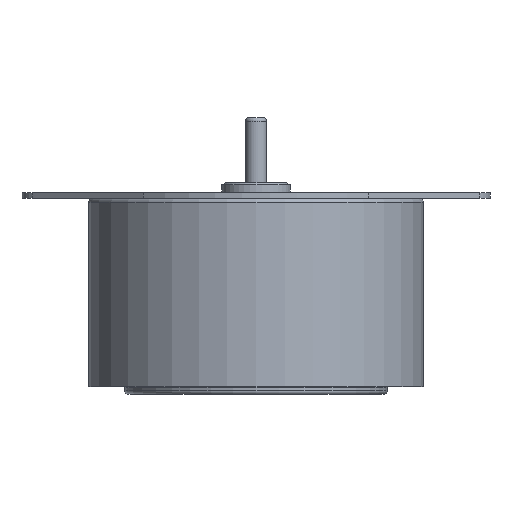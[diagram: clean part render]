
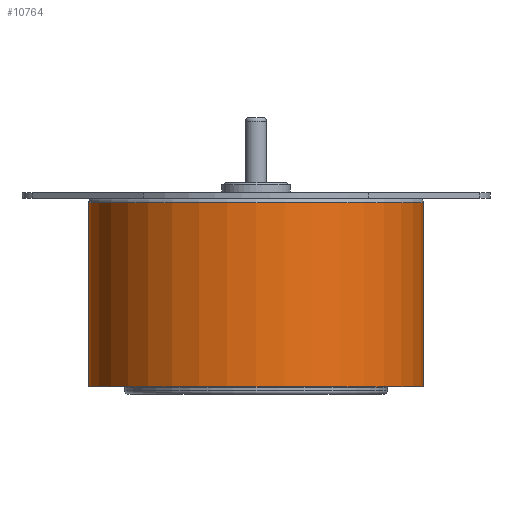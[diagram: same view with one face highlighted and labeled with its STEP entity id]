
A CAD part, front view. The second image highlights one B-rep face of the part: STEP entity #10764.
In plain terms, the highlighted cylindrical face has radius 24.5 mm (diameter 49 mm), a partial arc.
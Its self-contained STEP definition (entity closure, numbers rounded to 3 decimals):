
#91 = CARTESIAN_POINT ( 'NONE',  ( 24.5, 0., -27.6 ) ) ;
#114 = CARTESIAN_POINT ( 'NONE',  ( 0., 0., -27.6 ) ) ;
#220 = FACE_OUTER_BOUND ( 'NONE', #4297, .T. ) ;
#316 = CARTESIAN_POINT ( 'NONE',  ( 0., 0., -0.65 ) ) ;
#317 = DIRECTION ( 'NONE',  ( 1., 0., 0. ) ) ;
#896 = LINE ( 'NONE', #10561, #11937 ) ;
#1214 = VECTOR ( 'NONE', #9413, 1000. ) ;
#1357 = DIRECTION ( 'NONE',  ( 1., 0., 0. ) ) ;
#1479 = VERTEX_POINT ( 'NONE', #10574 ) ;
#1643 = ORIENTED_EDGE ( 'NONE', *, *, #6763, .T. ) ;
#1936 = LINE ( 'NONE', #7374, #1214 ) ;
#2103 = AXIS2_PLACEMENT_3D ( 'NONE', #316, #8853, #13371 ) ;
#2176 = VERTEX_POINT ( 'NONE', #6547 ) ;
#2389 = CARTESIAN_POINT ( 'NONE',  ( 0., 0., -27.6 ) ) ;
#2628 = VERTEX_POINT ( 'NONE', #7800 ) ;
#2956 = ORIENTED_EDGE ( 'NONE', *, *, #3458, .T. ) ;
#3458 = EDGE_CURVE ( 'NONE', #4381, #1479, #896, .T. ) ;
#3916 = CIRCLE ( 'NONE', #2103, 24.5 ) ;
#4013 = EDGE_CURVE ( 'NONE', #1479, #2176, #3916, .T. ) ;
#4297 = EDGE_LOOP ( 'NONE', ( #11432, #1643, #2956, #6982 ) ) ;
#4381 = VERTEX_POINT ( 'NONE', #91 ) ;
#5198 = DIRECTION ( 'NONE',  ( 0., 0., 1. ) ) ;
#5437 = EDGE_CURVE ( 'NONE', #2628, #2176, #1936, .T. ) ;
#5698 = CIRCLE ( 'NONE', #9314, 24.5 ) ;
#6547 = CARTESIAN_POINT ( 'NONE',  ( -24.5, 0., -0.65 ) ) ;
#6719 = DIRECTION ( 'NONE',  ( 0., 0., 1. ) ) ;
#6763 = EDGE_CURVE ( 'NONE', #2628, #4381, #5698, .T. ) ;
#6982 = ORIENTED_EDGE ( 'NONE', *, *, #4013, .T. ) ;
#7374 = CARTESIAN_POINT ( 'NONE',  ( -24.5, 0., -27.6 ) ) ;
#7800 = CARTESIAN_POINT ( 'NONE',  ( -24.5, 0., -27.6 ) ) ;
#8853 = DIRECTION ( 'NONE',  ( 0., 0., -1. ) ) ;
#9314 = AXIS2_PLACEMENT_3D ( 'NONE', #114, #11957, #317 ) ;
#9413 = DIRECTION ( 'NONE',  ( 0., 0., 1. ) ) ;
#10561 = CARTESIAN_POINT ( 'NONE',  ( 24.5, 0., -27.6 ) ) ;
#10574 = CARTESIAN_POINT ( 'NONE',  ( 24.5, 0., -0.65 ) ) ;
#10764 = ADVANCED_FACE ( 'NONE', ( #220 ), #13133, .T. ) ;
#11432 = ORIENTED_EDGE ( 'NONE', *, *, #5437, .F. ) ;
#11937 = VECTOR ( 'NONE', #5198, 1000. ) ;
#11957 = DIRECTION ( 'NONE',  ( 0., 0., 1. ) ) ;
#12120 = AXIS2_PLACEMENT_3D ( 'NONE', #2389, #6719, #1357 ) ;
#13133 = CYLINDRICAL_SURFACE ( 'NONE', #12120, 24.5 ) ;
#13371 = DIRECTION ( 'NONE',  ( 1., 0., 0. ) ) ;
